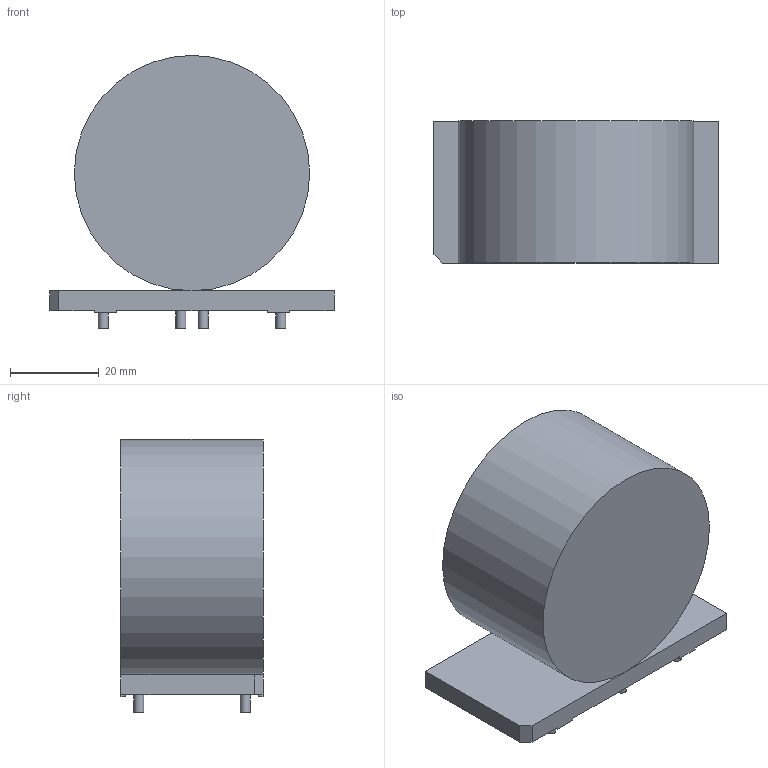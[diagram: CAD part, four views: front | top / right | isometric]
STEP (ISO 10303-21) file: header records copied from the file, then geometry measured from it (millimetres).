
FILE_DESCRIPTION(/* description */ (''),/* implementation_level */ '2;1');
FILE_NAME(/* name */ 'F:\Done\2016\多产品3D模拟\终版\新建文件夹\6122-X329\6122-X329 3D Model.stp',/* time_stamp */ '2016-07-12T14:12:05+08:00',/* author */ ('CN000562'),/* organization */ (''),/* preprocessor_version */ 'ST-DEVELOPER v16.5',/* originating_system */ 'Autodesk Inventor 2017',/* authorisation */ '');
FILE_SCHEMA (('AUTOMOTIVE_DESIGN { 1 0 10303 214 3 1 1 }'));
Length unit declared in the file: millimetre
Products named in the file (1): 6122-X326
Bounding box: 64 x 32 x 61.5 mm (x, y, z)
Volume: 61286.3 mm3; surface area: 14884.1 mm2
Topology: 1 solids, 2 shells, 39 faces, 86 edges, 56 vertices
Faces by surface type: plane 32, cylinder 7
Full cylindrical faces by diameter (mm): 2.24 x6, 53 x1
Entity records: 1062 total; most frequent: CARTESIAN_POINT 176, DIRECTION 174, ORIENTED_EDGE 162, EDGE_CURVE 80, LINE 66, VECTOR 66, VERTEX_POINT 56, AXIS2_PLACEMENT_3D 54
